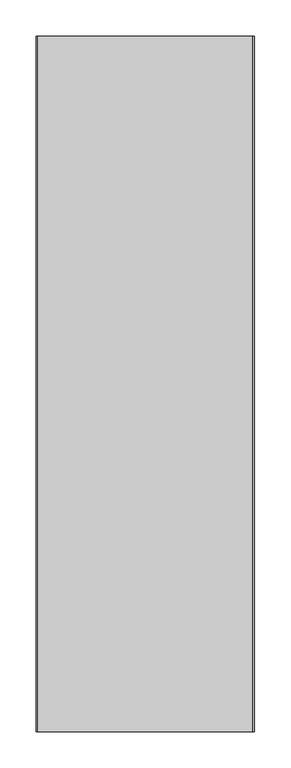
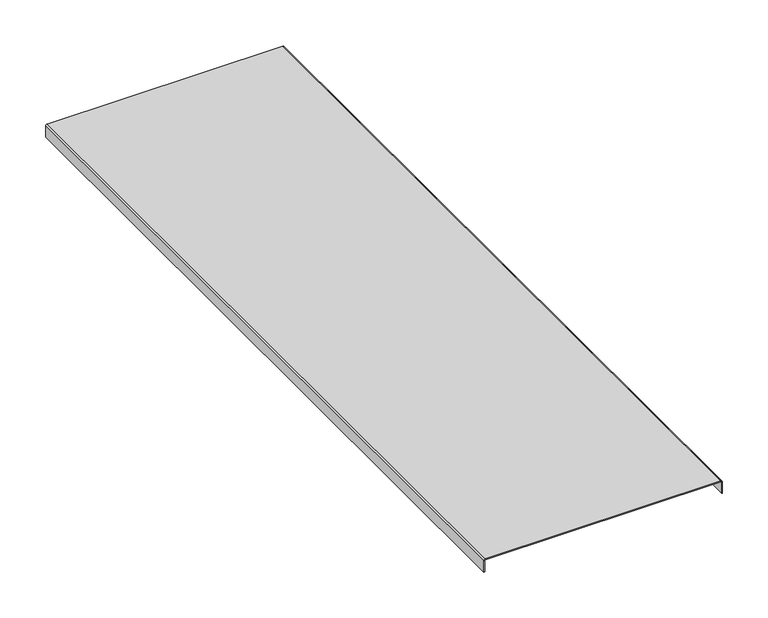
"""IFC4 building model written with IfcOpenShell, lengths in millimetres: proxy geometry, Cable_Tray_Cover_CT_Basorcanal : Basorcanal CT 100X300 (cover)."""

from ifc_helpers import new_model, si_unit, point, frame, frame_2d, origin, place, context, project, spatial, polyline, circle_curve, trimmed, segment, composite_curve, outline, extrude, source, transform, mapped, element, save


def generic_models_f6557bd0(model_context):
    return source(origin(), model_context, "Body", "SweptSolid", [
        extrude(outline(composite_curve([segment(trimmed(circle_curve(frame_2d((-1.0, -149.0)), 1.0), [point((-1.0, -150.0))], [point((0.0, -149.0))], True, "CARTESIAN"), True, "CONTINUOUS"), segment(polyline([(0.0, -149.0), (0.0, 149.0)]), True, "CONTINUOUS"), segment(trimmed(circle_curve(frame_2d((-1.0, 149.0)), 1.0), [point((0.0, 149.0))], [point((-1.0, 150.0))], True, "CARTESIAN"), True, "CONTINUOUS"), segment(polyline([(-1.0, 150.0), (-16.0, 150.0), (-16.0, 151.0), (-1.0, 151.0)]), True, "CONTINUOUS"), segment(trimmed(circle_curve(frame_2d((-1.0, 149.0)), 2.0), [point((-1.0, 151.0))], [point((1.0, 149.0))], False, "CARTESIAN"), True, "CONTINUOUS"), segment(polyline([(1.0, 149.0), (1.0, -149.0)]), True, "CONTINUOUS"), segment(trimmed(circle_curve(frame_2d((-1.0, -149.0)), 2.0), [point((1.0, -149.0))], [point((-1.0, -151.0))], False, "CARTESIAN"), True, "CONTINUOUS"), segment(polyline([(-1.0, -151.0), (-16.0, -151.0), (-16.0, -150.0), (-1.0, -150.0)]), True, "CONTINUOUS")], self_intersect=False)), frame((0.0, 0.0, 0.0), z_axis=(0.0, 1.0, 0.0), x_axis=(0.0, 0.0, 1.0)), (0.0, 0.0, 1.0), 960.8),
    ])


if __name__ == "__main__":
    model = new_model("IFC4")
    model_context = context("Model", 3, world=origin())
    ifc_project = project(units=[si_unit("LENGTHUNIT", "METRE", prefix="MILLI")], contexts=[model_context])
    site = spatial("IfcSite", under=ifc_project)
    building = spatial("IfcBuilding", under=site)
    placement = place(None, origin())
    generic_models_shape = generic_models_f6557bd0(model_context)
    element("IfcBuildingElementProxy", 1, Name="Cable_Tray_Cover_CT_Basorcanal : Basorcanal CT 100X300 (cover)", ObjectType="Cable_Tray_Cover_CT_Basorcanal : Basorcanal CT 100X300 (cover)", at=placement, inside=building, context=model_context, shape_type="MappedRepresentation", body=[
        mapped(generic_models_shape, transform((0.0, 0.0, 0.0), x_axis=(1.0, 0.0, 0.0), y_axis=(0.0, 1.0, 0.0), z_axis=(0.0, 0.0, 1.0))),
    ])
    save(model, "model.ifc")
